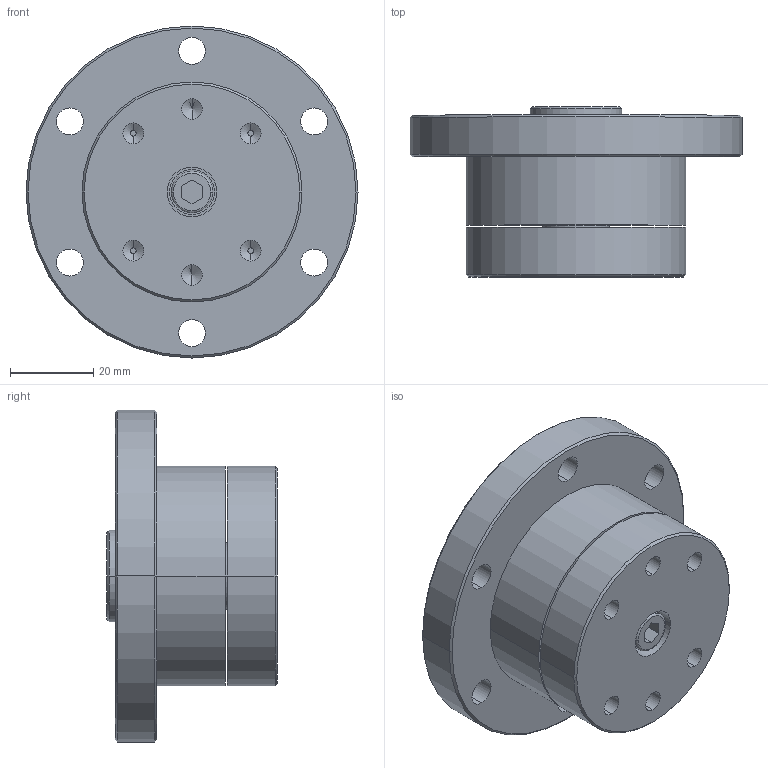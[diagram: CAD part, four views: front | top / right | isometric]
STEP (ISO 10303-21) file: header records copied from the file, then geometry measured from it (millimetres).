
FILE_DESCRIPTION (( 'STEP AP203' ), '1' );
FILE_NAME ('FGU-NEH-2-2T.STEP', '2022-10-31T07:48:44', ( '' ), ( '' ), 'SwSTEP 2.0', 'SolidWorks 2021', '' );
FILE_SCHEMA (( 'CONFIG_CONTROL_DESIGN' ));
Length unit declared in the file: millimetre
Products named in the file (1): FGU-NEH-2-2T
Bounding box: 80 x 41 x 80 mm (x, y, z)
Volume: 109858.3 mm3; surface area: 24764.3 mm2
Topology: 1 solids, 1 shells, 142 faces, 328 edges, 205 vertices
Faces by surface type: cylinder 58, plane 52, cone 22, torus 10
Entity records: 4123 total; most frequent: DIRECTION 760, CARTESIAN_POINT 670, ORIENTED_EDGE 644, EDGE_CURVE 322, AXIS2_PLACEMENT_3D 295, VERTEX_POINT 205, EDGE_LOOP 185, VECTOR 170
